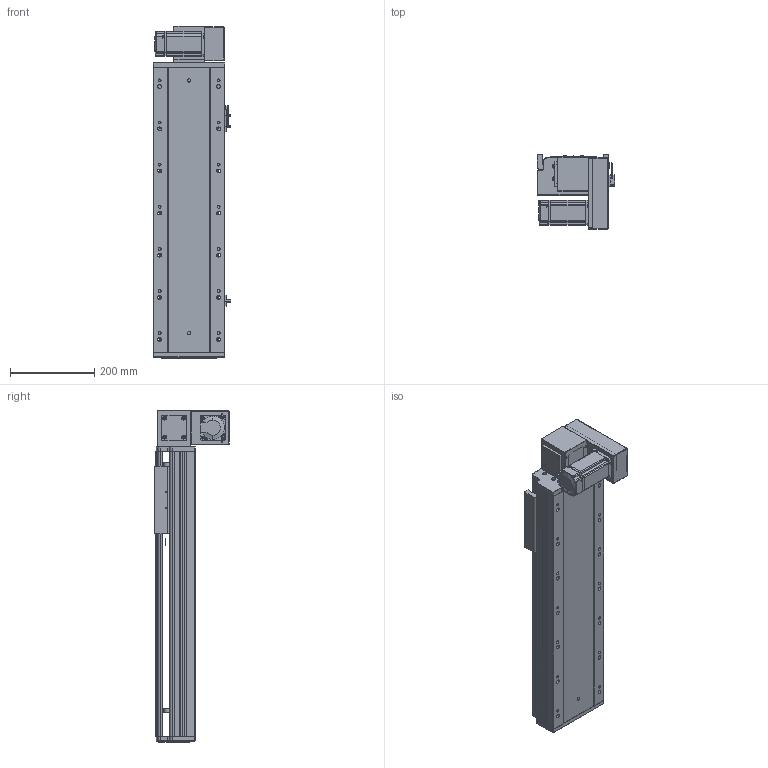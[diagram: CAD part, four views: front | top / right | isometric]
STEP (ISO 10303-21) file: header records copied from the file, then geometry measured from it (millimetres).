
FILE_DESCRIPTION (( 'STEP AP203' ), '1' );
FILE_NAME ('RY170-T-300-DR-P400W.SLDASM_400.step', '2021-03-01T08:22:41', ( '盈信电脑' ), ( '东莞市道滘镇水果街19号' ), 'SwSTEP 2.0', 'SolidWorks 2012', '' );
FILE_SCHEMA (( 'CONFIG_CONTROL_DESIGN' ));
Length unit declared in the file: millimetre
Products named in the file (19): RY170-T-300-DR-P400W.SLDASM_400; 15; 滅袉蝶18-10; RY170-T蹟翐M4; RY170-T肮祭謫裔啣; RY170-T-呴雄粣揤踡啣; RY170-T肮祭湍揤踡輸2; RY120-T主同步轮轴承压盖; RY170-T肮祭湍揤踡輸1; RY170翋肮祭謫釱; RY170肮祭謫ヶ裔啣; RY170肮祭謫萇儂欶; RY170同步轮电机安装板(400W); 覜茼ん672; RY170綴裔啣; RY170-T-300肮祭謫倰第裔啣-DR_400; RY170外置感应片(200共用）; RY170-T-300肮祭謫倰第菁釱-DR_400; RY170肮祭湍臏賑輸
Assembly tree (23 placements, depth 2):
  RY170-T-300-DR-P400W.SLDASM_400
    RY170-T-300肮祭謫倰第菁釱-DR_400
    RY170肮祭湍臏賑輸
    RY170-T-300肮祭謫倰第裔啣-DR_400
    RY170綴裔啣
    覜茼ん672  x3
    RY170外置感应片(200共用）
    RY170肮祭謫ヶ裔啣
    RY170翋肮祭謫釱
    RY170同步轮电机安装板(400W)
    RY170肮祭謫萇儂欶
    RY170-T肮祭湍揤踡輸1  x2
    RY170-T肮祭湍揤踡輸2  x2
    RY120-T主同步轮轴承压盖
    RY170-T肮祭謫裔啣
    RY170-T蹟翐M4
    滅袉蝶18-10  x2
    RY170-T-呴雄粣揤踡啣
    15
Bounding box: 183.7 x 178 x 788 mm (x, y, z)
Volume: 4404667.6 mm3; surface area: 1461105.9 mm2
Topology: 23 solids, 23 shells, 2674 faces, 7418 edges, 4787 vertices
Faces by surface type: plane 1264, cylinder 1180, cone 200, bspline 30
Entity records: 79645 total; most frequent: CARTESIAN_POINT 17617, ORIENTED_EDGE 12616, DIRECTION 12396, EDGE_CURVE 6308, AXIS2_PLACEMENT_3D 4336, VERTEX_POINT 4143, VECTOR 3724, LINE 3724
